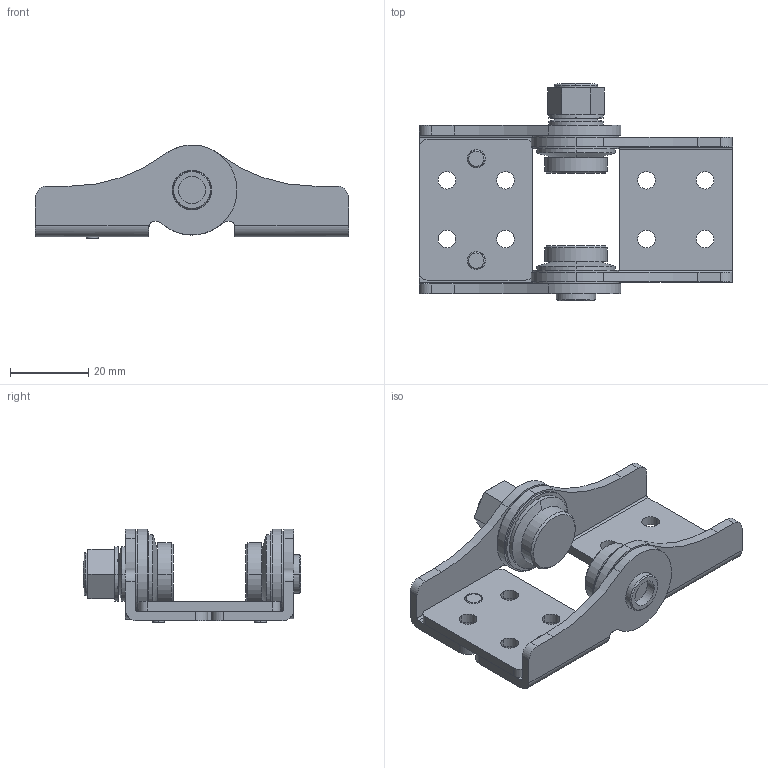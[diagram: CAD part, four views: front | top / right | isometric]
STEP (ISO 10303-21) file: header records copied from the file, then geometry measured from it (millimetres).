
FILE_DESCRIPTION (( 'STEP AP203' ), '1' );
FILE_NAME ('XG11-102.STEP', '2025-04-11T07:25:07', ( '微软用户' ), ( '微软中国' ), 'SwSTEP 2.0', 'SolidWorks 2024', '' );
FILE_SCHEMA (( 'CONFIG_CONTROL_DESIGN' ));
Length unit declared in the file: millimetre
Products named in the file (1): XG11-102
Bounding box: 80 x 55.6 x 24 mm (x, y, z)
Volume: 19898.7 mm3; surface area: 21486.1 mm2
Topology: 17 solids, 17 shells, 303 faces, 731 edges, 473 vertices
Faces by surface type: cylinder 151, plane 113, cone 35, bspline 2, torus 2
Entity records: 9230 total; most frequent: DIRECTION 1686, CARTESIAN_POINT 1663, ORIENTED_EDGE 1462, EDGE_CURVE 731, AXIS2_PLACEMENT_3D 665, VERTEX_POINT 473, EDGE_LOOP 372, CIRCLE 363
